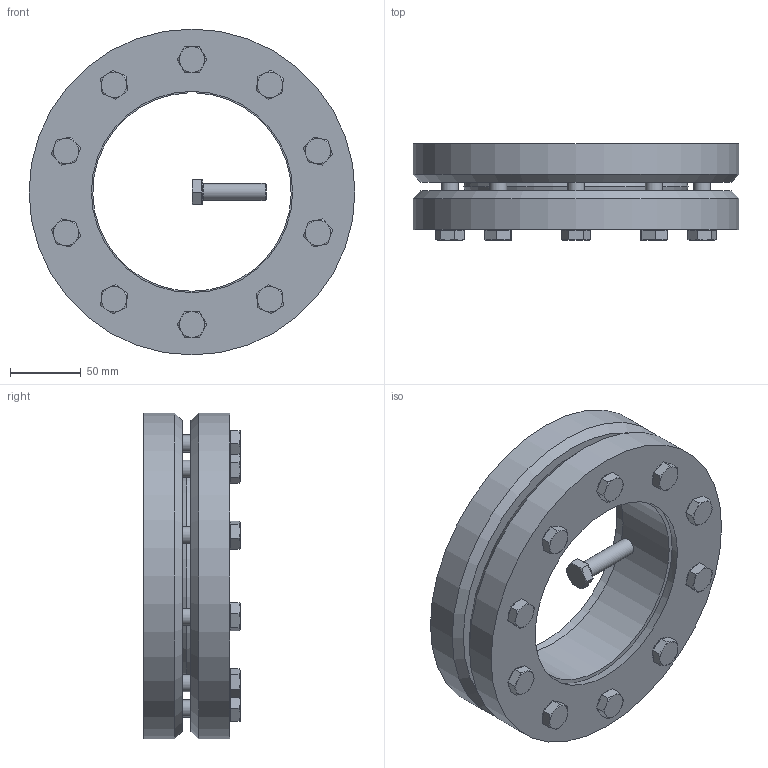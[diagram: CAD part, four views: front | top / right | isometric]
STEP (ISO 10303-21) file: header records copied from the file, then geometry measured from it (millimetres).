
FILE_DESCRIPTION( ( 'Unknown' ), '1' );
FILE_NAME( 'C:/Dokumente und Einstellungen/Sven/Desktop/homepage/cad - homepage/KBS19/KBS 19 - 140 x 230.stp', 'Unknown', ( 'Unknown' ), ( 'Unknown' ), 'XStep 1.0', 'Unknown', ' ' );
FILE_SCHEMA( ( 'automotive_design' ) );
Length unit declared in the file: millimetre
Products named in the file (3): Assem1; KBS 19 - 140 x 230; ISO 4017 - M12 x 45-N
Bounding box: 230 x 68 x 230 mm (x, y, z)
Volume: 2780214.4 mm3; surface area: 389016.5 mm2
Topology: 13 solids, 13 shells, 361 faces, 844 edges, 520 vertices
Faces by surface type: plane 193, cone 89, cylinder 68, torus 11
Full cylindrical faces by diameter (mm): 12 x51, 18 x11, 230 x4
Entity records: 2412 total; most frequent: CARTESIAN_POINT 387, DIRECTION 354, ORIENTED_EDGE 268, AXIS2_PLACEMENT_3D 156, EDGE_LOOP 143, EDGE_CURVE 134, VERTEX_POINT 101, FACE_OUTER_BOUND 93
